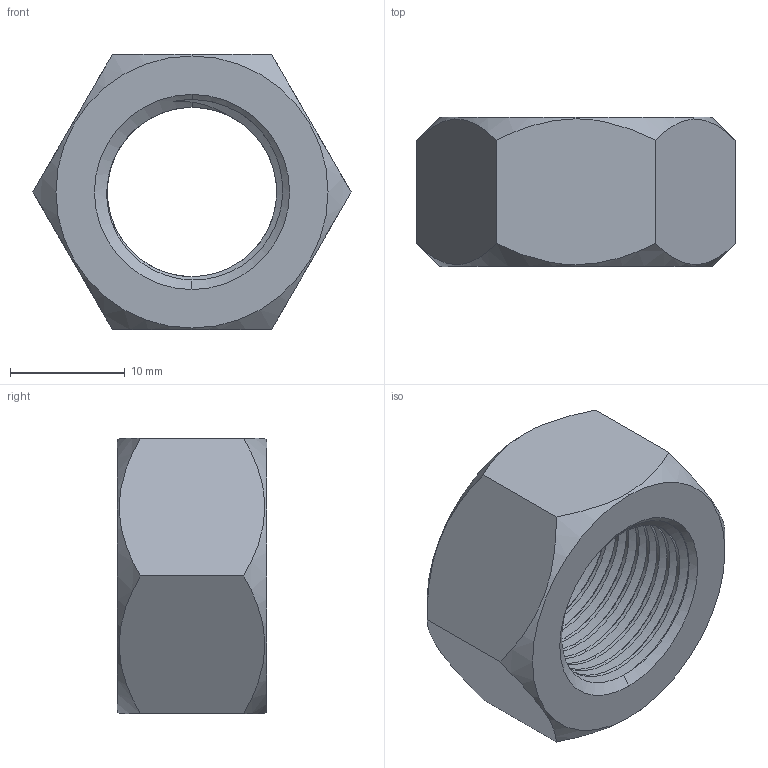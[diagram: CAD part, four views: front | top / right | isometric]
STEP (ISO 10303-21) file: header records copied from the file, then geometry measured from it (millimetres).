
FILE_DESCRIPTION (( 'STEP AP203' ), '1' );
FILE_NAME ('TANRM-304-M16x1.25.STEP', '2026-08-21T14:53:48', ( '' ), ( '' ), 'SwSTEP 2.0', 'SolidWorks 2020', '' );
FILE_SCHEMA (( 'CONFIG_CONTROL_DESIGN' ));
Length unit declared in the file: millimetre
Products named in the file (1): TANRM-304-M16x1.25
Bounding box: 27.71 x 13 x 24 mm (x, y, z)
Volume: 3990 mm3; surface area: 2566.7 mm2
Topology: 1 solids, 1 shells, 40 faces, 112 edges, 74 vertices
Faces by surface type: cylinder 20, cone 9, plane 8, bspline 3
Entity records: 3295 total; most frequent: CARTESIAN_POINT 2353, ORIENTED_EDGE 224, DIRECTION 134, EDGE_CURVE 112, VERTEX_POINT 74, AXIS2_PLACEMENT_3D 50, EDGE_LOOP 42, FACE_OUTER_BOUND 40
